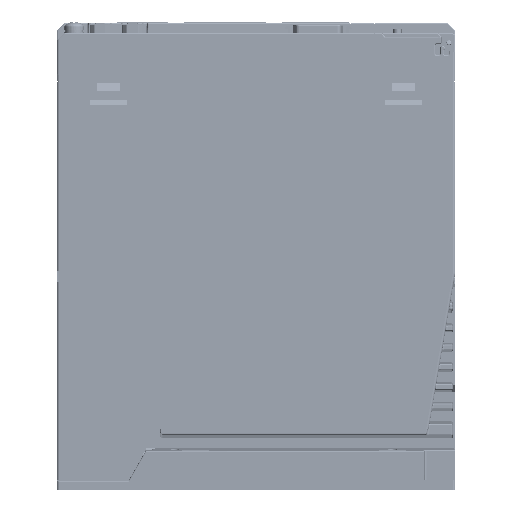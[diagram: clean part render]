
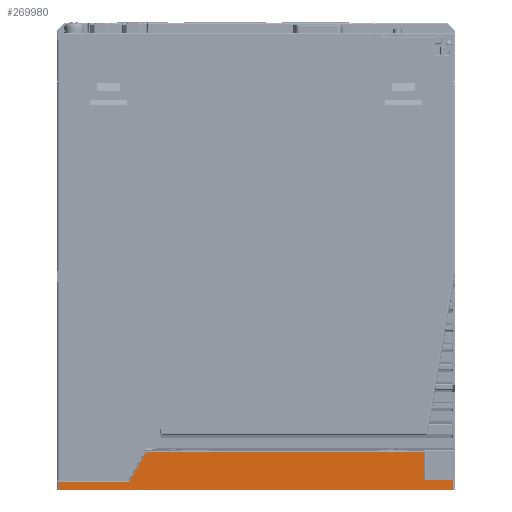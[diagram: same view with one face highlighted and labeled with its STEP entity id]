
A CAD part, front view. The second image highlights one B-rep face of the part: STEP entity #269980.
In plain terms, the highlighted planar face has unit normal (0, -1, 0).
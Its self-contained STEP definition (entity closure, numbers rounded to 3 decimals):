
#263830=CARTESIAN_POINT('',(28.5,-73.,4.0));
#263831=VERTEX_POINT('',#263830);
#263838=CARTESIAN_POINT('',(40.,-73.,4.));
#263839=VERTEX_POINT('',#263838);
#263840=CARTESIAN_POINT('',(40.,-73.,4.));
#263841=DIRECTION('',(-1.0,0.0,0.0));
#263842=VECTOR('',#263841,11.5);
#263843=LINE('',#263840,#263842);
#263844=EDGE_CURVE('',#263839,#263831,#263843,.T.);
#269900=CARTESIAN_POINT('',(41.,-73.,0.0));
#269901=DIRECTION('',(0.0,-1.0,0.0));
#269902=DIRECTION('',(0.0,0.0,-1.0));
#269903=AXIS2_PLACEMENT_3D('',#269900,#269901,#269902);
#269904=PLANE('',#269903);
#269905=CARTESIAN_POINT('',(-120.0,-73.,3.3));
#269906=VERTEX_POINT('',#269905);
#269907=CARTESIAN_POINT('',(-92.09,-73.,3.3));
#269908=VERTEX_POINT('',#269907);
#269909=CARTESIAN_POINT('',(-120.0,-73.,3.3));
#269910=DIRECTION('',(1.0,0.0,0.0));
#269911=VECTOR('',#269910,27.91);
#269912=LINE('',#269909,#269911);
#269913=EDGE_CURVE('',#269906,#269908,#269912,.T.);
#269914=ORIENTED_EDGE('',*,*,#269913,.F.);
#269915=CARTESIAN_POINT('',(-120.0,-73.,0.0));
#269916=VERTEX_POINT('',#269915);
#269917=CARTESIAN_POINT('',(-120.0,-73.,0.0));
#269918=DIRECTION('',(0.0,0.0,1.0));
#269919=VECTOR('',#269918,3.3);
#269920=LINE('',#269917,#269919);
#269921=EDGE_CURVE('',#269916,#269906,#269920,.T.);
#269922=ORIENTED_EDGE('',*,*,#269921,.F.);
#269923=CARTESIAN_POINT('',(40.,-73.,0.0));
#269924=VERTEX_POINT('',#269923);
#269925=CARTESIAN_POINT('',(40.,-73.,0.0));
#269926=DIRECTION('',(-1.0,0.0,0.0));
#269927=VECTOR('',#269926,160.0);
#269928=LINE('',#269925,#269927);
#269929=EDGE_CURVE('',#269924,#269916,#269928,.T.);
#269930=ORIENTED_EDGE('',*,*,#269929,.F.);
#269931=CARTESIAN_POINT('',(40.,-73.,4.));
#269932=DIRECTION('',(0.0,0.0,-1.0));
#269933=VECTOR('',#269932,4.);
#269934=LINE('',#269931,#269933);
#269935=EDGE_CURVE('',#263839,#269924,#269934,.T.);
#269936=ORIENTED_EDGE('',*,*,#269935,.F.);
#269937=ORIENTED_EDGE('',*,*,#263844,.T.);
#269938=CARTESIAN_POINT('',(28.5,-73.,15.488));
#269939=VERTEX_POINT('',#269938);
#269940=CARTESIAN_POINT('',(28.5,-73.,4.0));
#269941=DIRECTION('',(0.0,0.0,1.0));
#269942=VECTOR('',#269941,11.488);
#269943=LINE('',#269940,#269942);
#269944=EDGE_CURVE('',#263831,#269939,#269943,.T.);
#269945=ORIENTED_EDGE('',*,*,#269944,.T.);
#269946=CARTESIAN_POINT('',(28.5,-73.,15.496));
#269947=VERTEX_POINT('',#269946);
#269948=CARTESIAN_POINT('',(28.,-73.,15.488));
#269949=DIRECTION('',(0.0,1.0,0.0));
#269950=DIRECTION('',(0.,0.0,1.0));
#269951=AXIS2_PLACEMENT_3D('',#269948,#269949,#269950);
#269952=ELLIPSE('',#269951,0.5,0.5);
#269953=EDGE_CURVE('',#269947,#269939,#269952,.T.);
#269954=ORIENTED_EDGE('',*,*,#269953,.F.);
#269955=CARTESIAN_POINT('',(-84.542,-73.,15.496));
#269956=VERTEX_POINT('',#269955);
#269957=CARTESIAN_POINT('',(-84.542,-73.,15.496));
#269958=DIRECTION('',(1.0,0.0,0.0));
#269959=VECTOR('',#269958,113.042);
#269960=LINE('',#269957,#269959);
#269961=EDGE_CURVE('',#269956,#269947,#269960,.T.);
#269962=ORIENTED_EDGE('',*,*,#269961,.F.);
#269963=CARTESIAN_POINT('',(-91.222,-73.,3.804));
#269964=VERTEX_POINT('',#269963);
#269965=CARTESIAN_POINT('',(-91.222,-73.,3.804));
#269966=DIRECTION('',(0.496,0.0,0.868));
#269967=VECTOR('',#269966,13.466);
#269968=LINE('',#269965,#269967);
#269969=EDGE_CURVE('',#269964,#269956,#269968,.T.);
#269970=ORIENTED_EDGE('',*,*,#269969,.F.);
#269971=CARTESIAN_POINT('',(-92.09,-73.,4.3));
#269972=DIRECTION('',(0.0,-1.0,0.0));
#269973=DIRECTION('',(0.502,0.0,-0.865));
#269974=AXIS2_PLACEMENT_3D('',#269971,#269972,#269973);
#269975=CIRCLE('',#269974,1.);
#269976=EDGE_CURVE('',#269908,#269964,#269975,.T.);
#269977=ORIENTED_EDGE('',*,*,#269976,.F.);
#269978=EDGE_LOOP('',(#269914,#269922,#269930,#269936,#269937,#269945,#269954,#269962,#269970,#269977));
#269979=FACE_OUTER_BOUND('',#269978,.T.);
#269980=ADVANCED_FACE('',(#269979),#269904,.T.);
